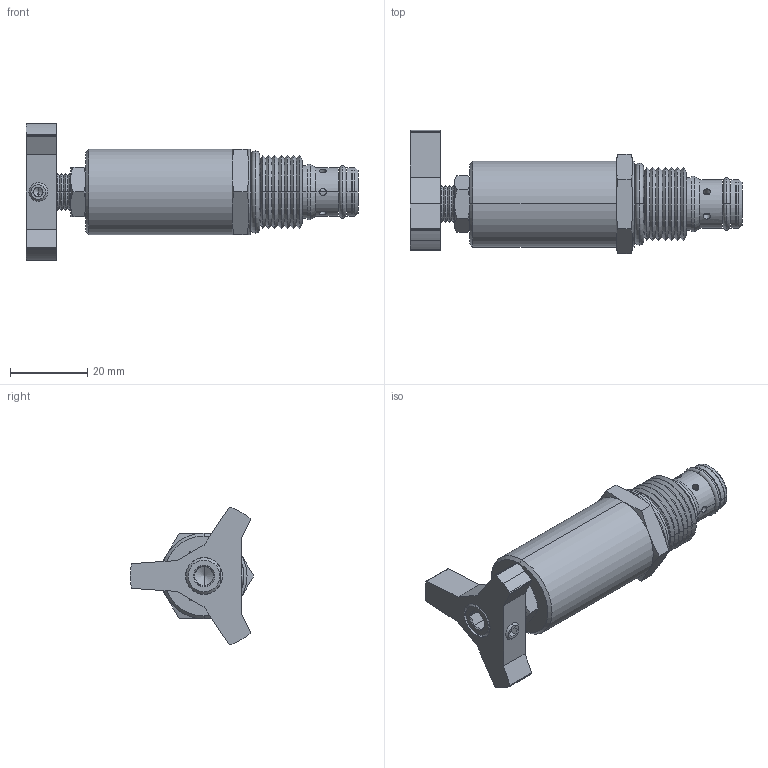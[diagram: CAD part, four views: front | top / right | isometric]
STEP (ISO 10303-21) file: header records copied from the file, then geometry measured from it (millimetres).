
FILE_DESCRIPTION((''),'2;1');
FILE_NAME('U:\Solid model CD\Solid model full\Mechanical\STEP\PBRWD0K-3D Full.stp','2008-07-29T09:54:56',('Dan'),(''),'Autodesk Inventor 9','Autodesk Inventor 9','');
FILE_SCHEMA(('AUTOMOTIVE_DESIGN { 1 0 10303 214 1 1 1 1 }'));
Length unit declared in the file: inch
Products named in the file (7): PBRWD0K-3D Full; PBRWD0K-3D Full1; PBRWD0K-3D Full2; PBRWD0K-3D Full3; PBRWD0K-3D Full4; PBRWD0K-3D Full5; PBRWD0K-3D Full6
Assembly tree (6 placements, depth 2):
  PBRWD0K-3D Full
    PBRWD0K-3D Full1
    PBRWD0K-3D Full2
    PBRWD0K-3D Full3
    PBRWD0K-3D Full4
    PBRWD0K-3D Full5
    PBRWD0K-3D Full6
Bounding box: 85.8 x 31.88 x 35.54 mm (x, y, z)
Volume: 26041.8 mm3; surface area: 9509.7 mm2
Topology: 6 solids, 6 shells, 317 faces, 716 edges, 413 vertices
Faces by surface type: cone 170, plane 73, cylinder 66, torus 8
Entity records: 9238 total; most frequent: CARTESIAN_POINT 2075, DIRECTION 1554, ORIENTED_EDGE 1428, EDGE_CURVE 714, AXIS2_PLACEMENT_3D 632, VERTEX_POINT 413, EDGE_LOOP 345, FACE_OUTER_BOUND 317
